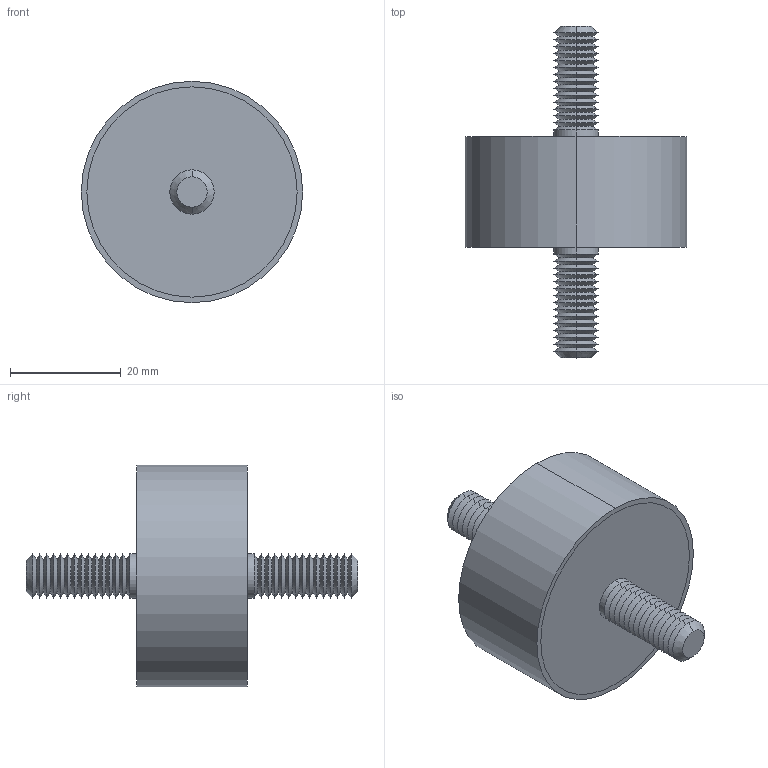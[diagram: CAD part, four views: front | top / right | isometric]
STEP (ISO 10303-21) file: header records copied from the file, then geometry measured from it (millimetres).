
FILE_DESCRIPTION (( 'STEP AP203' ), '1' );
FILE_NAME ('61040.W0402.step', '2019-09-24T22:34:53', ( '' ), ( '' ), 'SwSTEP 2.0', 'SolidWorks 2017', '' );
FILE_SCHEMA (( 'CONFIG_CONTROL_DESIGN' ));
Length unit declared in the file: millimetre
Products named in the file (4): Part2_61040.W0402; 61040.W0402; Part1_61040.W0402; Part3_61040.W0402
Assembly tree (3 placements, depth 2):
  61040.W0402
    Part1_61040.W0402
    Part2_61040.W0402
    Part3_61040.W0402
Bounding box: 40 x 60 x 40 mm (x, y, z)
Volume: 26675 mm3; surface area: 11646.6 mm2
Topology: 3 solids, 3 shells, 140 faces, 274 edges, 144 vertices
Faces by surface type: cone 116, cylinder 14, plane 10
Entity records: 3908 total; most frequent: DIRECTION 710, CARTESIAN_POINT 564, ORIENTED_EDGE 548, AXIS2_PLACEMENT_3D 290, EDGE_CURVE 274, VERTEX_POINT 144, EDGE_LOOP 144, CIRCLE 144
